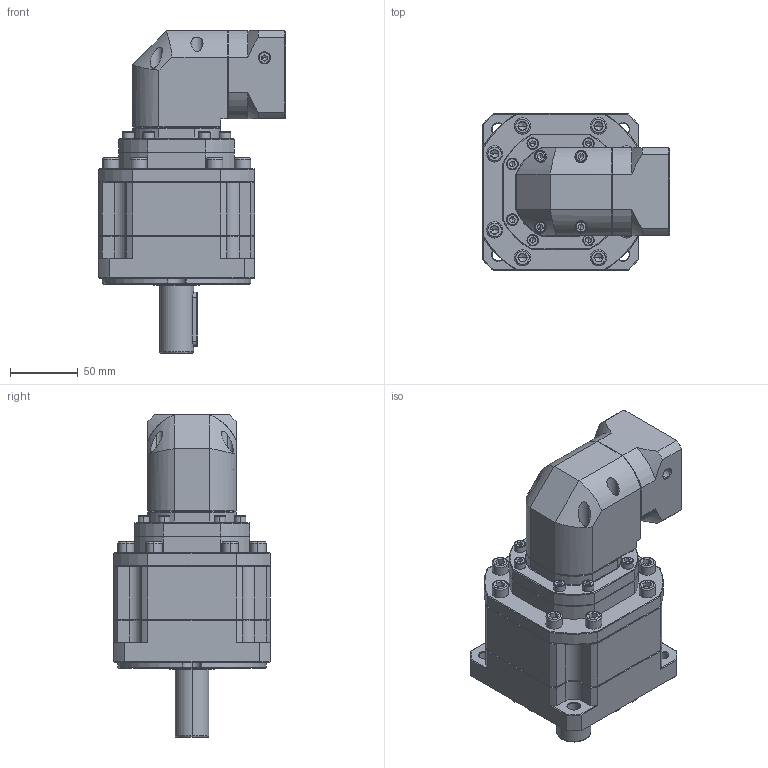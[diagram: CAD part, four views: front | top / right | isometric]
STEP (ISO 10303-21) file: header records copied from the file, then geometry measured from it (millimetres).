
FILE_DESCRIPTION (( 'STEP AP214' ), '1' );
FILE_NAME ('ZBR115A-D25-L3-P2-11-60-75-M5.step', '2023-08-26T14:05:13', ( '' ), ( '' ), 'SwSTEP 2.0', 'SolidWorks 2016', '' );
FILE_SCHEMA (( 'AUTOMOTIVE_DESIGN' ));
Length unit declared in the file: millimetre
Products named in the file (1): ZBR115A-D25-L3-P2-11-60-75-M5
Bounding box: 137.7 x 115 x 237.5 mm (x, y, z)
Volume: 1566501 mm3; surface area: 146336.8 mm2
Topology: 6 solids, 6 shells, 2636 faces, 6920 edges, 4404 vertices
Faces by surface type: plane 1299, cylinder 485, bspline 455, cone 389, torus 8
Entity records: 136885 total; most frequent: CARTESIAN_POINT 46566, ORIENTED_EDGE 13716, DIRECTION 11112, EDGE_CURVE 6858, VERTEX_POINT 4404, VECTOR 4364, LINE 4364, AXIS2_PLACEMENT_3D 3374
